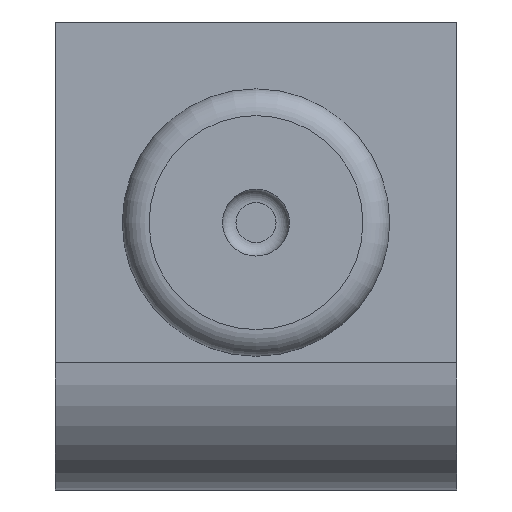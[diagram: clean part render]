
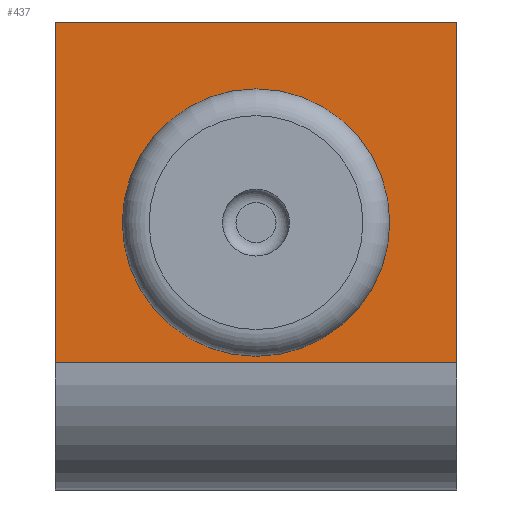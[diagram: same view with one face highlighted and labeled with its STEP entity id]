
A CAD part, left-side view. The second image highlights one B-rep face of the part: STEP entity #437.
In plain terms, the highlighted planar face has unit normal (-1, 0, 0).
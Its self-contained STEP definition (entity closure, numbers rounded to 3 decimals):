
#40=LINE('',#687,#64);
#52=LINE('',#723,#76);
#54=LINE('',#727,#78);
#56=LINE('',#730,#80);
#64=VECTOR('',#545,30.);
#76=VECTOR('',#583,25.496);
#78=VECTOR('',#587,30.);
#80=VECTOR('',#591,25.496);
#92=PLANE('',#481);
#106=FACE_BOUND('',#174,.T.);
#134=FACE_OUTER_BOUND('',#173,.T.);
#173=EDGE_LOOP('',(#375,#376,#377,#378));
#174=EDGE_LOOP('',(#379));
#201=CIRCLE('',#457,5.75);
#226=VERTEX_POINT('',#662);
#229=VERTEX_POINT('',#668);
#234=VERTEX_POINT('',#679);
#245=VERTEX_POINT('',#722);
#246=VERTEX_POINT('',#726);
#263=EDGE_CURVE('',#226,#226,#201,.T.);
#275=EDGE_CURVE('',#234,#229,#40,.T.);
#291=EDGE_CURVE('',#245,#234,#52,.T.);
#293=EDGE_CURVE('',#246,#245,#54,.T.);
#295=EDGE_CURVE('',#229,#246,#56,.T.);
#375=ORIENTED_EDGE('',*,*,#275,.T.);
#376=ORIENTED_EDGE('',*,*,#295,.T.);
#377=ORIENTED_EDGE('',*,*,#293,.T.);
#378=ORIENTED_EDGE('',*,*,#291,.T.);
#379=ORIENTED_EDGE('',*,*,#263,.T.);
#437=ADVANCED_FACE('',(#134,#106),#92,.F.);
#457=AXIS2_PLACEMENT_3D('',#663,#520,#521);
#481=AXIS2_PLACEMENT_3D('',#731,#592,#593);
#520=DIRECTION('center_axis',(1.,0.,0.));
#521=DIRECTION('ref_axis',(0.,0.,-1.));
#545=DIRECTION('',(0.,-1.,0.));
#583=DIRECTION('',(0.,0.,-1.));
#587=DIRECTION('',(0.,1.,0.));
#591=DIRECTION('',(0.,0.,1.));
#592=DIRECTION('center_axis',(1.,0.,0.));
#593=DIRECTION('ref_axis',(0.,0.,-1.));
#662=CARTESIAN_POINT('',(-17.5,0.,14.246));
#663=CARTESIAN_POINT('Origin',(-17.5,0.,19.996));
#668=CARTESIAN_POINT('',(-17.5,-15.,9.5));
#679=CARTESIAN_POINT('',(-17.5,15.,9.5));
#687=CARTESIAN_POINT('',(-17.5,-7.5,9.5));
#722=CARTESIAN_POINT('',(-17.5,15.,34.996));
#723=CARTESIAN_POINT('',(-17.5,15.,34.996));
#726=CARTESIAN_POINT('',(-17.5,-15.,34.996));
#727=CARTESIAN_POINT('',(-17.5,-15.,34.996));
#730=CARTESIAN_POINT('',(-17.5,-15.,-50.004));
#731=CARTESIAN_POINT('Origin',(-17.5,0.,-7.504));
